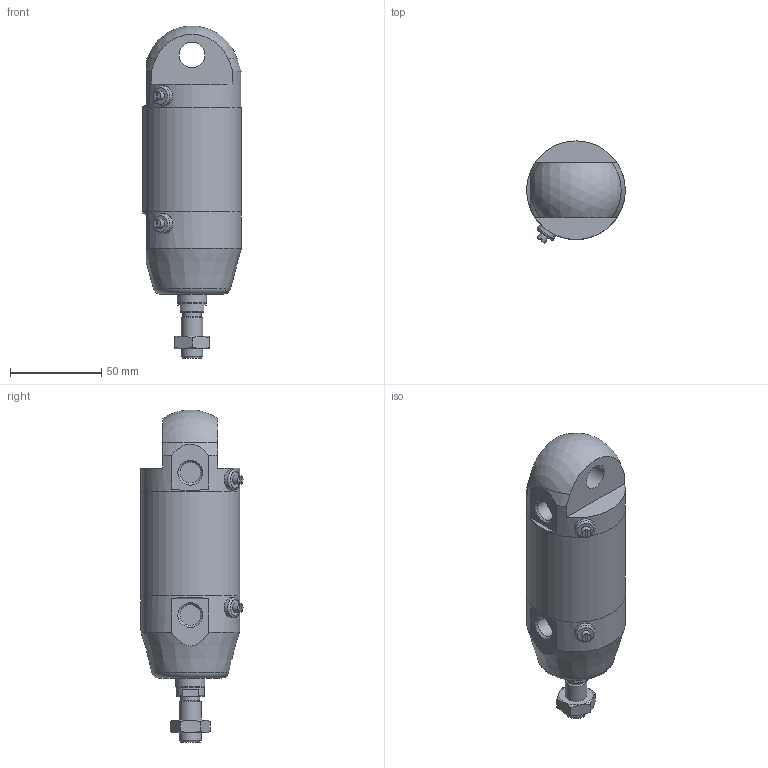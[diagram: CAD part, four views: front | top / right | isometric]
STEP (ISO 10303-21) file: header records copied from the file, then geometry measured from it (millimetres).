
FILE_DESCRIPTION(/* description */ (''),/* implementation_level */ '2;1');
FILE_NAME(/* name */ 'I:\Area Tecnica\Documenti\A-Manieri\_Inventor\12X\12X#A_###_####_#_#\12XBA_050_0015_#_#.stp',/* time_stamp */ '2015-04-24T09:18:22+02:00',/* author */ ('maniean1'),/* organization */ ('Pneumax S.p.A.'),/* preprocessor_version */ 'ST-DEVELOPER v15.2',/* originating_system */ 'Autodesk Inventor 2014',/* authorisation */ '');
FILE_SCHEMA (('AUTOMOTIVE_DESIGN { 1 0 10303 214 3 1 1 }'));
Length unit declared in the file: millimetre
Products named in the file (6): C1250_619-0015; 12X50_614; 12X50_607; S12X50_0015; 12X_50_11; 12XBA_050_0015_#_#
Bounding box: 54 x 55.88 x 181.83 mm (x, y, z)
Volume: 262775.1 mm3; surface area: 59653.5 mm2
Topology: 5 solids, 5 shells, 77 faces, 168 edges, 109 vertices
Faces by surface type: plane 43, cylinder 18, cone 12, torus 3, sphere 1
Full cylindrical faces by diameter (mm): 5 x2, 10.2 x1, 11 x2, 11.4 x2, 12 x2, 14 x2, 15.6 x1, 16 x1, 50 x2, 54 x3
Entity records: 2072 total; most frequent: CARTESIAN_POINT 428, DIRECTION 346, ORIENTED_EDGE 260, AXIS2_PLACEMENT_3D 152, EDGE_CURVE 130, EDGE_LOOP 122, VERTEX_POINT 100, ADVANCED_FACE 77
